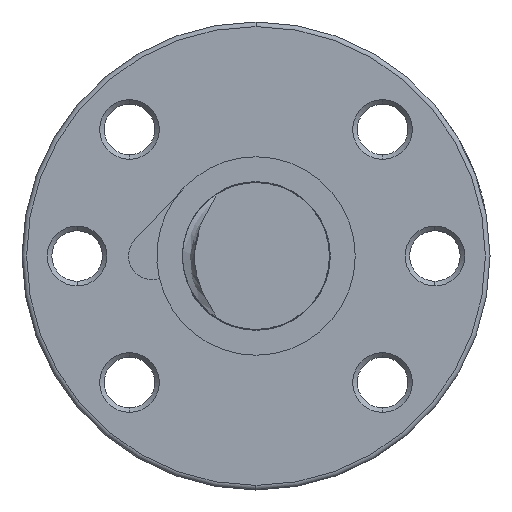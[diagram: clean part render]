
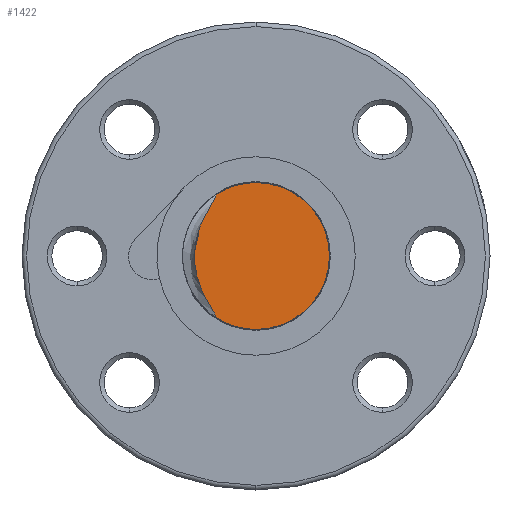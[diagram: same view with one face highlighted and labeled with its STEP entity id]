
A CAD part, left-side view. The second image highlights one B-rep face of the part: STEP entity #1422.
In plain terms, the highlighted planar face has unit normal (-1, 0, 0).
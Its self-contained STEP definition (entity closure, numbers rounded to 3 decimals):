
#204 = VERTEX_POINT ( 'NONE', #18047 ) ;
#206 = EDGE_CURVE ( 'NONE', #204, #225, #18217, .T. ) ;
#225 = VERTEX_POINT ( 'NONE', #2370 ) ;
#308 = EDGE_CURVE ( 'NONE', #309, #310, #18700, .T. ) ;
#309 = VERTEX_POINT ( 'NONE', #18692 ) ;
#310 = VERTEX_POINT ( 'NONE', #18690 ) ;
#1402 = ORIENTED_EDGE ( 'NONE', *, *, #206, .F. ) ;
#1403 = ORIENTED_EDGE ( 'NONE', *, *, #1545, .F. ) ;
#1422 = ADVANCED_FACE ( 'NONE', ( #29732 ), #29727, .F. ) ;
#1423 = EDGE_LOOP ( 'NONE', ( #1424, #1425, #1402, #1403 ) ) ;
#1424 = ORIENTED_EDGE ( 'NONE', *, *, #308, .F. ) ;
#1425 = ORIENTED_EDGE ( 'NONE', *, *, #1426, .T. ) ;
#1426 = EDGE_CURVE ( 'NONE', #309, #225, #29789, .T. ) ;
#1545 = EDGE_CURVE ( 'NONE', #310, #204, #29934, .T. ) ;
#2370 = CARTESIAN_POINT ( 'NONE',  ( -100., 4.336, -6.723 ) ) ;
#18047 = CARTESIAN_POINT ( 'NONE',  ( -100., 0., -8. ) ) ;
#18211 = DIRECTION ( 'NONE',  ( 0., 1., 0. ) ) ;
#18213 = DIRECTION ( 'NONE',  ( 1., 0., 0. ) ) ;
#18215 = CARTESIAN_POINT ( 'NONE',  ( -100., 0., 0. ) ) ;
#18216 = AXIS2_PLACEMENT_3D ( 'NONE', #18215, #18213, #18211 ) ;
#18217 = CIRCLE ( 'NONE', #18216, 8. ) ;
#18690 = CARTESIAN_POINT ( 'NONE',  ( -100., 0., 8. ) ) ;
#18692 = CARTESIAN_POINT ( 'NONE',  ( -100., 4.336, 6.723 ) ) ;
#18694 = DIRECTION ( 'NONE',  ( 0., 1., 0. ) ) ;
#18696 = DIRECTION ( 'NONE',  ( 1., 0., 0. ) ) ;
#18698 = AXIS2_PLACEMENT_3D ( 'NONE', #18714, #18696, #18694 ) ;
#18700 = CIRCLE ( 'NONE', #18698, 8. ) ;
#18714 = CARTESIAN_POINT ( 'NONE',  ( -100., 0., 0. ) ) ;
#29723 = DIRECTION ( 'NONE',  ( 0., 0., -1. ) ) ;
#29724 = DIRECTION ( 'NONE',  ( 1., 0., 0. ) ) ;
#29725 = CARTESIAN_POINT ( 'NONE',  ( -100., 0., 0. ) ) ;
#29726 = AXIS2_PLACEMENT_3D ( 'NONE', #29725, #29724, #29723 ) ;
#29727 = PLANE ( 'NONE',  #29726 ) ;
#29732 = FACE_OUTER_BOUND ( 'NONE', #1423, .T. ) ;
#29757 = CARTESIAN_POINT ( 'NONE',  ( -100., 4.336, -6.723 ) ) ;
#29758 = CARTESIAN_POINT ( 'NONE',  ( -100., 4.351, -6.648 ) ) ;
#29759 = CARTESIAN_POINT ( 'NONE',  ( -100., 4.375, -6.575 ) ) ;
#29760 = CARTESIAN_POINT ( 'NONE',  ( -100., 4.431, -6.433 ) ) ;
#29761 = CARTESIAN_POINT ( 'NONE',  ( -100., 4.462, -6.363 ) ) ;
#29762 = CARTESIAN_POINT ( 'NONE',  ( -100., 4.563, -6.159 ) ) ;
#29763 = CARTESIAN_POINT ( 'NONE',  ( -100., 4.638, -6.027 ) ) ;
#29764 = CARTESIAN_POINT ( 'NONE',  ( -100., 4.866, -5.634 ) ) ;
#29765 = CARTESIAN_POINT ( 'NONE',  ( -100., 5.025, -5.376 ) ) ;
#29766 = CARTESIAN_POINT ( 'NONE',  ( -100., 5.484, -4.59 ) ) ;
#29767 = CARTESIAN_POINT ( 'NONE',  ( -100., 5.766, -4.053 ) ) ;
#29768 = CARTESIAN_POINT ( 'NONE',  ( -100., 6.113, -3.218 ) ) ;
#29769 = CARTESIAN_POINT ( 'NONE',  ( -100., 6.216, -2.934 ) ) ;
#29770 = CARTESIAN_POINT ( 'NONE',  ( -100., 6.395, -2.356 ) ) ;
#29771 = CARTESIAN_POINT ( 'NONE',  ( -100., 6.471, -2.062 ) ) ;
#29772 = CARTESIAN_POINT ( 'NONE',  ( -100., 6.652, -1.178 ) ) ;
#29773 = CARTESIAN_POINT ( 'NONE',  ( -100., 6.714, -0.585 ) ) ;
#29774 = CARTESIAN_POINT ( 'NONE',  ( -100., 6.712, 0.311 ) ) ;
#29775 = CARTESIAN_POINT ( 'NONE',  ( -100., 6.696, 0.612 ) ) ;
#29776 = CARTESIAN_POINT ( 'NONE',  ( -100., 6.632, 1.214 ) ) ;
#29777 = CARTESIAN_POINT ( 'NONE',  ( -100., 6.585, 1.514 ) ) ;
#29778 = CARTESIAN_POINT ( 'NONE',  ( -100., 6.4, 2.394 ) ) ;
#29779 = CARTESIAN_POINT ( 'NONE',  ( -100., 6.22, 2.962 ) ) ;
#29780 = CARTESIAN_POINT ( 'NONE',  ( -100., 5.76, 4.064 ) ) ;
#29781 = CARTESIAN_POINT ( 'NONE',  ( -100., 5.479, 4.6 ) ) ;
#29782 = CARTESIAN_POINT ( 'NONE',  ( -100., 5.021, 5.383 ) ) ;
#29783 = CARTESIAN_POINT ( 'NONE',  ( -100., 4.863, 5.64 ) ) ;
#29784 = CARTESIAN_POINT ( 'NONE',  ( -100., 4.635, 6.032 ) ) ;
#29785 = CARTESIAN_POINT ( 'NONE',  ( -100., 4.561, 6.164 ) ) ;
#29786 = CARTESIAN_POINT ( 'NONE',  ( -100., 4.427, 6.436 ) ) ;
#29787 = CARTESIAN_POINT ( 'NONE',  ( -100., 4.365, 6.574 ) ) ;
#29788 = CARTESIAN_POINT ( 'NONE',  ( -100., 4.336, 6.723 ) ) ;
#29789 = B_SPLINE_CURVE_WITH_KNOTS ( 'NONE', 3,
 ( #29788, #29787, #29786, #29785, #29784, #29783, #29782, #29781, #29780, #29779, #29778, #29777, #29776, #29775, #29774, #29773, #29772, #29771, #29770, #29769, #29768, #29767, #29766, #29765, #29764, #29763, #29762, #29761, #29760, #29759, #29758, #29757 ),
 .UNSPECIFIED., .F., .F.,
 ( 4, 2, 2, 2, 2, 2, 2, 2, 2, 2, 2, 2, 2, 2, 2, 4 ),
 ( 0.005, 0.005, 0.006, 0.007, 0.008, 0.01, 0.011, 0.012, 0.014, 0.014, 0.015, 0.017, 0.018, 0.018, 0.019, 0.019 ),
 .UNSPECIFIED. ) ;
#29931 = DIRECTION ( 'NONE',  ( 0., 1., 0. ) ) ;
#29932 = DIRECTION ( 'NONE',  ( 1., 0., 0. ) ) ;
#29933 = AXIS2_PLACEMENT_3D ( 'NONE', #29939, #29932, #29931 ) ;
#29934 = CIRCLE ( 'NONE', #29933, 8. ) ;
#29939 = CARTESIAN_POINT ( 'NONE',  ( -100., 0., 0. ) ) ;
